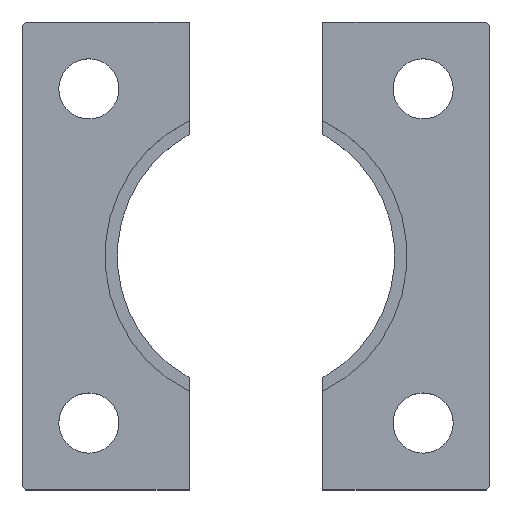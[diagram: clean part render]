
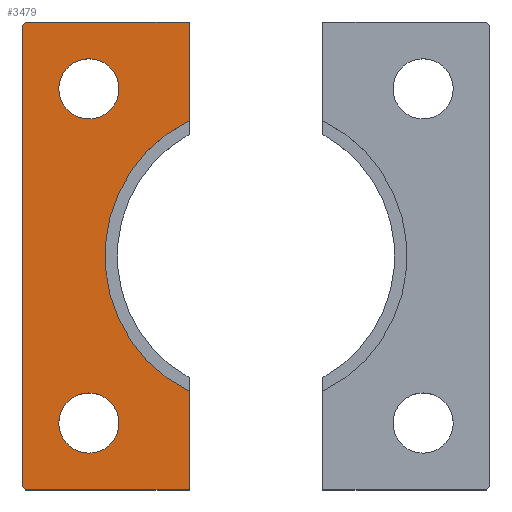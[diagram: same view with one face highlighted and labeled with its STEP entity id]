
A CAD part, top view. The second image highlights one B-rep face of the part: STEP entity #3479.
In plain terms, the highlighted planar face has unit normal (0, 0, 1).
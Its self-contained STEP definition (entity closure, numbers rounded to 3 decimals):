
#29=CIRCLE('',#3617,22.6);
#31=CIRCLE('',#3621,4.5);
#32=CIRCLE('',#3622,4.5);
#58=FACE_BOUND('',#649,.T.);
#59=FACE_BOUND('',#650,.T.);
#444=FACE_OUTER_BOUND('',#648,.T.);
#648=EDGE_LOOP('',(#3079,#3080,#3081,#3082,#3083,#3084,#3085,#3086));
#649=EDGE_LOOP('',(#3087));
#650=EDGE_LOOP('',(#3088));
#977=LINE('',#6126,#1319);
#978=LINE('',#6128,#1320);
#979=LINE('',#6130,#1321);
#980=LINE('',#6132,#1322);
#981=LINE('',#6134,#1323);
#982=LINE('',#6136,#1324);
#983=LINE('',#6137,#1325);
#1319=VECTOR('',#4145,10.);
#1320=VECTOR('',#4146,10.);
#1321=VECTOR('',#4147,10.);
#1322=VECTOR('',#4148,10.);
#1323=VECTOR('',#4149,10.);
#1324=VECTOR('',#4150,10.);
#1325=VECTOR('',#4151,10.);
#1663=VERTEX_POINT('',#6111);
#1665=VERTEX_POINT('',#6115);
#1668=VERTEX_POINT('',#6125);
#1669=VERTEX_POINT('',#6127);
#1670=VERTEX_POINT('',#6129);
#1671=VERTEX_POINT('',#6131);
#1672=VERTEX_POINT('',#6133);
#1673=VERTEX_POINT('',#6135);
#1674=VERTEX_POINT('',#6138);
#1675=VERTEX_POINT('',#6140);
#2145=EDGE_CURVE('',#1663,#1665,#29,.T.);
#2149=EDGE_CURVE('',#1668,#1665,#977,.T.);
#2150=EDGE_CURVE('',#1669,#1668,#978,.T.);
#2151=EDGE_CURVE('',#1670,#1669,#979,.T.);
#2152=EDGE_CURVE('',#1671,#1670,#980,.T.);
#2153=EDGE_CURVE('',#1672,#1671,#981,.T.);
#2154=EDGE_CURVE('',#1673,#1672,#982,.T.);
#2155=EDGE_CURVE('',#1663,#1673,#983,.T.);
#2156=EDGE_CURVE('',#1674,#1674,#31,.T.);
#2157=EDGE_CURVE('',#1675,#1675,#32,.T.);
#3079=ORIENTED_EDGE('',*,*,#2145,.T.);
#3080=ORIENTED_EDGE('',*,*,#2149,.F.);
#3081=ORIENTED_EDGE('',*,*,#2150,.F.);
#3082=ORIENTED_EDGE('',*,*,#2151,.F.);
#3083=ORIENTED_EDGE('',*,*,#2152,.F.);
#3084=ORIENTED_EDGE('',*,*,#2153,.F.);
#3085=ORIENTED_EDGE('',*,*,#2154,.F.);
#3086=ORIENTED_EDGE('',*,*,#2155,.F.);
#3087=ORIENTED_EDGE('',*,*,#2156,.T.);
#3088=ORIENTED_EDGE('',*,*,#2157,.T.);
#3299=PLANE('',#3620);
#3479=ADVANCED_FACE('',(#444,#58,#59),#3299,.T.);
#3617=AXIS2_PLACEMENT_3D('',#6117,#4135,#4136);
#3620=AXIS2_PLACEMENT_3D('',#6124,#4143,#4144);
#3621=AXIS2_PLACEMENT_3D('',#6139,#4152,#4153);
#3622=AXIS2_PLACEMENT_3D('',#6141,#4154,#4155);
#4135=DIRECTION('center_axis',(0.,0.,-1.));
#4136=DIRECTION('ref_axis',(-1.,0.,0.));
#4143=DIRECTION('center_axis',(0.,0.,1.));
#4144=DIRECTION('ref_axis',(1.,0.,0.));
#4145=DIRECTION('',(0.,-1.,0.));
#4146=DIRECTION('',(1.,0.,0.));
#4147=DIRECTION('',(0.707,0.707,0.));
#4148=DIRECTION('',(0.,1.,0.));
#4149=DIRECTION('',(-0.707,0.707,0.));
#4150=DIRECTION('',(-1.,0.,0.));
#4151=DIRECTION('',(0.,-1.,0.));
#4152=DIRECTION('center_axis',(0.,0.,-1.));
#4153=DIRECTION('ref_axis',(-1.,0.,0.));
#4154=DIRECTION('center_axis',(0.,0.,-1.));
#4155=DIRECTION('ref_axis',(-1.,0.,0.));
#6111=CARTESIAN_POINT('',(-10.,-20.267,7.));
#6115=CARTESIAN_POINT('',(-10.,20.267,7.));
#6117=CARTESIAN_POINT('Origin',(0.,0.,7.));
#6124=CARTESIAN_POINT('Origin',(-22.461,0.,
7.));
#6125=CARTESIAN_POINT('',(-10.,35.,7.));
#6126=CARTESIAN_POINT('',(-10.,-35.,7.));
#6127=CARTESIAN_POINT('',(-34.5,35.,7.));
#6128=CARTESIAN_POINT('',(-10.,35.,7.));
#6129=CARTESIAN_POINT('',(-35.,34.5,7.));
#6130=CARTESIAN_POINT('',(-34.5,35.,7.));
#6131=CARTESIAN_POINT('',(-35.,-34.5,7.));
#6132=CARTESIAN_POINT('',(-35.,34.5,7.));
#6133=CARTESIAN_POINT('',(-34.5,-35.,7.));
#6134=CARTESIAN_POINT('',(-35.,-34.5,7.));
#6135=CARTESIAN_POINT('',(-10.,-35.,7.));
#6136=CARTESIAN_POINT('',(-34.5,-35.,7.));
#6137=CARTESIAN_POINT('',(-10.,-35.,7.));
#6138=CARTESIAN_POINT('',(-20.5,25.,7.));
#6139=CARTESIAN_POINT('Origin',(-25.,25.,7.));
#6140=CARTESIAN_POINT('',(-20.5,-25.,7.));
#6141=CARTESIAN_POINT('Origin',(-25.,-25.,7.));
